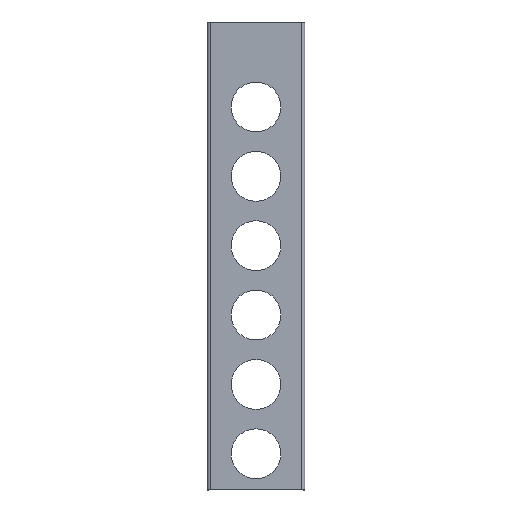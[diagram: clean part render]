
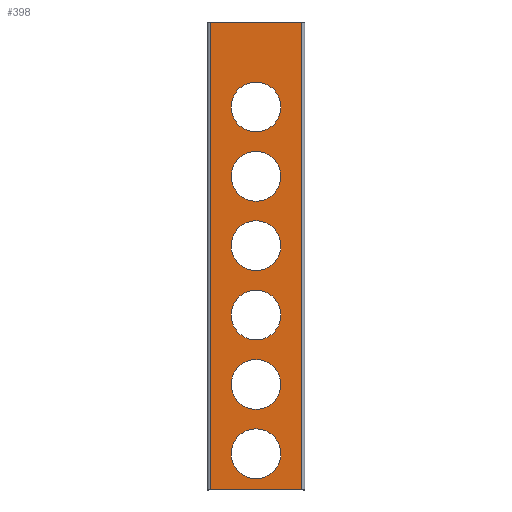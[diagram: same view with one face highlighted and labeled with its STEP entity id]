
A CAD part, top view. The second image highlights one B-rep face of the part: STEP entity #398.
In plain terms, the highlighted planar face has unit normal (0, 0, 1).
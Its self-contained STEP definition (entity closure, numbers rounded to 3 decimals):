
#26 = CARTESIAN_POINT ( 'NONE',  ( 0., 250., 40. ) ) ;
#29 = CARTESIAN_POINT ( 'NONE',  ( 0., 392., 40. ) ) ;
#32 = CARTESIAN_POINT ( 'NONE',  ( -47., 0., 40. ) ) ;
#33 = DIRECTION ( 'NONE',  ( -1., 0., 0. ) ) ;
#34 = CARTESIAN_POINT ( 'NONE',  ( 0., 179., 40. ) ) ;
#35 = DIRECTION ( 'NONE',  ( 0., 0., -1. ) ) ;
#36 = DIRECTION ( 'NONE',  ( 1., 0., 0. ) ) ;
#37 = CARTESIAN_POINT ( 'NONE',  ( 47., 479., 40. ) ) ;
#38 = DIRECTION ( 'NONE',  ( 0., 0., -1. ) ) ;
#39 = DIRECTION ( 'NONE',  ( 1., 0., 0. ) ) ;
#40 = CARTESIAN_POINT ( 'NONE',  ( -47., 479., 40. ) ) ;
#41 = DIRECTION ( 'NONE',  ( 0., 1., 0. ) ) ;
#42 = DIRECTION ( 'NONE',  ( 0., 0., -1. ) ) ;
#43 = DIRECTION ( 'NONE',  ( 1., 0., 0. ) ) ;
#44 = CARTESIAN_POINT ( 'NONE',  ( 47., 0., 40. ) ) ;
#45 = DIRECTION ( 'NONE',  ( 1., 0., 0. ) ) ;
#46 = CARTESIAN_POINT ( 'NONE',  ( 0., 37., 40. ) ) ;
#49 = CARTESIAN_POINT ( 'NONE',  ( 0., 108., 40. ) ) ;
#50 = DIRECTION ( 'NONE',  ( 0., -1., 0. ) ) ;
#54 = DIRECTION ( 'NONE',  ( 0., 0., -1. ) ) ;
#55 = DIRECTION ( 'NONE',  ( 1., 0., 0. ) ) ;
#57 = DIRECTION ( 'NONE',  ( 0., 0., -1. ) ) ;
#58 = DIRECTION ( 'NONE',  ( 1., 0., 0. ) ) ;
#59 = CARTESIAN_POINT ( 'NONE',  ( 0., 179., 40. ) ) ;
#62 = CARTESIAN_POINT ( 'NONE',  ( 0., 321., 40. ) ) ;
#65 = DIRECTION ( 'NONE',  ( 0., 0., -1. ) ) ;
#66 = DIRECTION ( 'NONE',  ( 1., 0., 0. ) ) ;
#68 = DIRECTION ( 'NONE',  ( 0., 0., -1. ) ) ;
#69 = DIRECTION ( 'NONE',  ( 1., 0., 0. ) ) ;
#130 = DIRECTION ( 'NONE',  ( 1., 0., 0. ) ) ;
#131 = DIRECTION ( 'NONE',  ( 0., 0., -1. ) ) ;
#133 = DIRECTION ( 'NONE',  ( 1., 0., 0. ) ) ;
#134 = DIRECTION ( 'NONE',  ( 0., 0., -1. ) ) ;
#135 = CARTESIAN_POINT ( 'NONE',  ( 0., 321., 40. ) ) ;
#146 = CARTESIAN_POINT ( 'NONE',  ( 0., 250., 40. ) ) ;
#149 = DIRECTION ( 'NONE',  ( 0., 0., -1. ) ) ;
#165 = DIRECTION ( 'NONE',  ( 1., 0., 0. ) ) ;
#170 = CARTESIAN_POINT ( 'NONE',  ( 25.5, 179., 40. ) ) ;
#174 = CARTESIAN_POINT ( 'NONE',  ( -25.5, 37., 40. ) ) ;
#187 = CARTESIAN_POINT ( 'NONE',  ( -25.5, 392., 40. ) ) ;
#188 = CARTESIAN_POINT ( 'NONE',  ( -47., 0., 40. ) ) ;
#194 = CARTESIAN_POINT ( 'NONE',  ( -25.5, 108., 40. ) ) ;
#196 = CARTESIAN_POINT ( 'NONE',  ( 25.5, 321., 40. ) ) ;
#198 = CARTESIAN_POINT ( 'NONE',  ( -25.5, 179., 40. ) ) ;
#199 = CARTESIAN_POINT ( 'NONE',  ( -25.5, 250., 40. ) ) ;
#202 = CARTESIAN_POINT ( 'NONE',  ( 25.5, 392., 40. ) ) ;
#206 = CARTESIAN_POINT ( 'NONE',  ( -25.5, 321., 40. ) ) ;
#207 = CARTESIAN_POINT ( 'NONE',  ( -47., 479., 40. ) ) ;
#208 = VERTEX_POINT ( 'NONE', #207 ) ;
#210 = VERTEX_POINT ( 'NONE', #206 ) ;
#211 = VERTEX_POINT ( 'NONE', #174 ) ;
#213 = VERTEX_POINT ( 'NONE', #253 ) ;
#216 = VERTEX_POINT ( 'NONE', #202 ) ;
#219 = VERTEX_POINT ( 'NONE', #199 ) ;
#220 = VERTEX_POINT ( 'NONE', #198 ) ;
#221 = VERTEX_POINT ( 'NONE', #196 ) ;
#223 = VERTEX_POINT ( 'NONE', #194 ) ;
#229 = VERTEX_POINT ( 'NONE', #188 ) ;
#230 = VERTEX_POINT ( 'NONE', #187 ) ;
#245 = VERTEX_POINT ( 'NONE', #170 ) ;
#250 = VERTEX_POINT ( 'NONE', #344 ) ;
#251 = VERTEX_POINT ( 'NONE', #365 ) ;
#252 = VERTEX_POINT ( 'NONE', #364 ) ;
#253 = CARTESIAN_POINT ( 'NONE',  ( 25.5, 37., 40. ) ) ;
#256 = VERTEX_POINT ( 'NONE', #345 ) ;
#261 = DIRECTION ( 'NONE',  ( 1., 0., 0. ) ) ;
#262 = DIRECTION ( 'NONE',  ( 0., 0., -1. ) ) ;
#273 = CARTESIAN_POINT ( 'NONE',  ( 0., 392., 40. ) ) ;
#286 = DIRECTION ( 'NONE',  ( 1., 0., 0. ) ) ;
#287 = DIRECTION ( 'NONE',  ( 0., 0., -1. ) ) ;
#289 = CARTESIAN_POINT ( 'NONE',  ( 0., 37., 40. ) ) ;
#300 = CARTESIAN_POINT ( 'NONE',  ( 2., 239.5, 40. ) ) ;
#303 = DIRECTION ( 'NONE',  ( 1., 0., 0. ) ) ;
#304 = DIRECTION ( 'NONE',  ( 0., 0., 1. ) ) ;
#305 = PLANE ( 'NONE',  #647 ) ;
#344 = CARTESIAN_POINT ( 'NONE',  ( 47., 479., 40. ) ) ;
#345 = CARTESIAN_POINT ( 'NONE',  ( 25.5, 108., 40. ) ) ;
#364 = CARTESIAN_POINT ( 'NONE',  ( 47., 0., 40. ) ) ;
#365 = CARTESIAN_POINT ( 'NONE',  ( 25.5, 250., 40. ) ) ;
#370 = CARTESIAN_POINT ( 'NONE',  ( 0., 108., 40. ) ) ;
#398 = ADVANCED_FACE ( 'NONE', ( #908, #906, #896, #893, #904, #905, #898 ), #305, .T. ) ;
#431 = EDGE_LOOP ( 'NONE', ( #802, #880 ) ) ;
#462 = EDGE_LOOP ( 'NONE', ( #884, #886 ) ) ;
#471 = ORIENTED_EDGE ( 'NONE', *, *, #584, .T. ) ;
#476 = ORIENTED_EDGE ( 'NONE', *, *, #670, .T. ) ;
#478 = ORIENTED_EDGE ( 'NONE', *, *, #688, .F. ) ;
#494 = EDGE_LOOP ( 'NONE', ( #897, #538 ) ) ;
#501 = EDGE_LOOP ( 'NONE', ( #476, #718 ) ) ;
#513 = EDGE_LOOP ( 'NONE', ( #901, #824, #478, #783 ) ) ;
#533 = EDGE_LOOP ( 'NONE', ( #471, #534 ) ) ;
#534 = ORIENTED_EDGE ( 'NONE', *, *, #698, .T. ) ;
#538 = ORIENTED_EDGE ( 'NONE', *, *, #701, .T. ) ;
#556 = EDGE_LOOP ( 'NONE', ( #732, #899 ) ) ;
#577 = EDGE_CURVE ( 'NONE', #251, #219, #808, .T. ) ;
#584 = EDGE_CURVE ( 'NONE', #213, #211, #793, .T. ) ;
#593 = EDGE_CURVE ( 'NONE', #216, #230, #771, .T. ) ;
#603 = AXIS2_PLACEMENT_3D ( 'NONE', #62, #68, #69 ) ;
#604 = AXIS2_PLACEMENT_3D ( 'NONE', #59, #65, #66 ) ;
#607 = AXIS2_PLACEMENT_3D ( 'NONE', #46, #57, #58 ) ;
#608 = AXIS2_PLACEMENT_3D ( 'NONE', #34, #42, #43 ) ;
#609 = AXIS2_PLACEMENT_3D ( 'NONE', #49, #54, #55 ) ;
#610 = AXIS2_PLACEMENT_3D ( 'NONE', #26, #35, #36 ) ;
#611 = AXIS2_PLACEMENT_3D ( 'NONE', #29, #38, #39 ) ;
#621 = AXIS2_PLACEMENT_3D ( 'NONE', #370, #131, #130 ) ;
#622 = AXIS2_PLACEMENT_3D ( 'NONE', #135, #134, #133 ) ;
#625 = AXIS2_PLACEMENT_3D ( 'NONE', #273, #262, #261 ) ;
#627 = AXIS2_PLACEMENT_3D ( 'NONE', #289, #287, #286 ) ;
#647 = AXIS2_PLACEMENT_3D ( 'NONE', #300, #304, #303 ) ;
#656 = AXIS2_PLACEMENT_3D ( 'NONE', #146, #149, #165 ) ;
#668 = EDGE_CURVE ( 'NONE', #256, #223, #751, .T. ) ;
#670 = EDGE_CURVE ( 'NONE', #221, #210, #747, .T. ) ;
#688 = EDGE_CURVE ( 'NONE', #252, #229, #720, .T. ) ;
#689 = EDGE_CURVE ( 'NONE', #219, #251, #711, .T. ) ;
#690 = EDGE_CURVE ( 'NONE', #230, #216, #707, .T. ) ;
#691 = EDGE_CURVE ( 'NONE', #229, #208, #733, .T. ) ;
#692 = EDGE_CURVE ( 'NONE', #245, #220, #705, .T. ) ;
#693 = EDGE_CURVE ( 'NONE', #208, #250, #706, .T. ) ;
#695 = EDGE_CURVE ( 'NONE', #250, #252, #715, .T. ) ;
#697 = EDGE_CURVE ( 'NONE', #223, #256, #860, .T. ) ;
#698 = EDGE_CURVE ( 'NONE', #211, #213, #868, .T. ) ;
#701 = EDGE_CURVE ( 'NONE', #220, #245, #889, .T. ) ;
#702 = EDGE_CURVE ( 'NONE', #210, #221, #849, .T. ) ;
#705 = CIRCLE ( 'NONE', #608, 25.5 ) ;
#706 = LINE ( 'NONE', #37, #713 ) ;
#707 = CIRCLE ( 'NONE', #611, 25.5 ) ;
#711 = CIRCLE ( 'NONE', #610, 25.5 ) ;
#712 = VECTOR ( 'NONE', #41, 1000. ) ;
#713 = VECTOR ( 'NONE', #45, 1000. ) ;
#715 = LINE ( 'NONE', #44, #856 ) ;
#718 = ORIENTED_EDGE ( 'NONE', *, *, #702, .T. ) ;
#719 = VECTOR ( 'NONE', #33, 1000. ) ;
#720 = LINE ( 'NONE', #32, #719 ) ;
#732 = ORIENTED_EDGE ( 'NONE', *, *, #577, .T. ) ;
#733 = LINE ( 'NONE', #40, #712 ) ;
#747 = CIRCLE ( 'NONE', #622, 25.5 ) ;
#751 = CIRCLE ( 'NONE', #621, 25.5 ) ;
#771 = CIRCLE ( 'NONE', #625, 25.5 ) ;
#783 = ORIENTED_EDGE ( 'NONE', *, *, #695, .F. ) ;
#793 = CIRCLE ( 'NONE', #627, 25.5 ) ;
#802 = ORIENTED_EDGE ( 'NONE', *, *, #593, .T. ) ;
#808 = CIRCLE ( 'NONE', #656, 25.5 ) ;
#824 = ORIENTED_EDGE ( 'NONE', *, *, #691, .F. ) ;
#849 = CIRCLE ( 'NONE', #603, 25.5 ) ;
#856 = VECTOR ( 'NONE', #50, 1000. ) ;
#860 = CIRCLE ( 'NONE', #609, 25.5 ) ;
#868 = CIRCLE ( 'NONE', #607, 25.5 ) ;
#880 = ORIENTED_EDGE ( 'NONE', *, *, #690, .T. ) ;
#884 = ORIENTED_EDGE ( 'NONE', *, *, #668, .T. ) ;
#886 = ORIENTED_EDGE ( 'NONE', *, *, #697, .T. ) ;
#889 = CIRCLE ( 'NONE', #604, 25.5 ) ;
#893 = FACE_BOUND ( 'NONE', #462, .T. ) ;
#896 = FACE_BOUND ( 'NONE', #556, .T. ) ;
#897 = ORIENTED_EDGE ( 'NONE', *, *, #692, .T. ) ;
#898 = FACE_BOUND ( 'NONE', #501, .T. ) ;
#899 = ORIENTED_EDGE ( 'NONE', *, *, #689, .T. ) ;
#901 = ORIENTED_EDGE ( 'NONE', *, *, #693, .F. ) ;
#904 = FACE_BOUND ( 'NONE', #533, .T. ) ;
#905 = FACE_BOUND ( 'NONE', #494, .T. ) ;
#906 = FACE_BOUND ( 'NONE', #431, .T. ) ;
#908 = FACE_OUTER_BOUND ( 'NONE', #513, .T. ) ;
